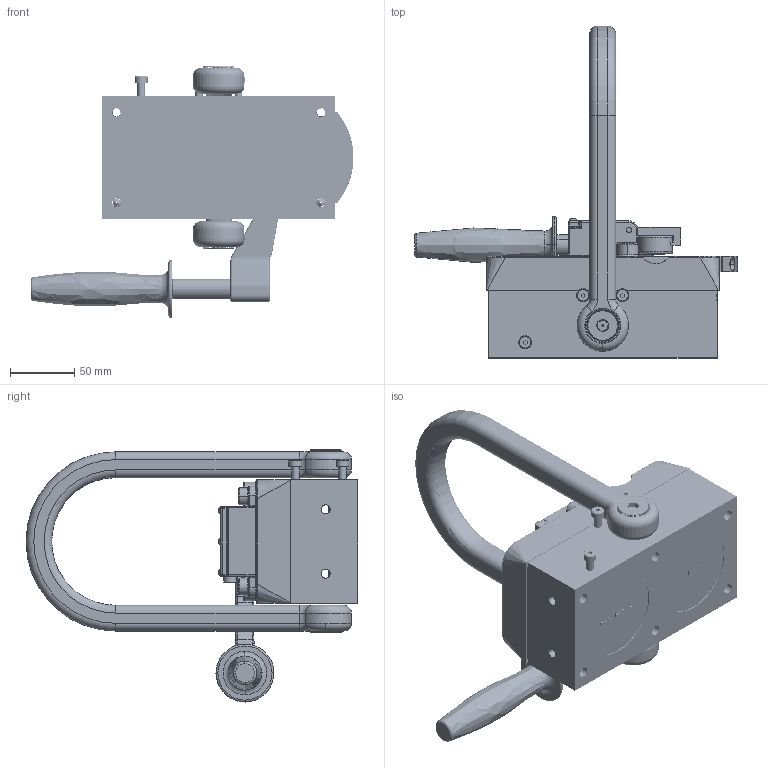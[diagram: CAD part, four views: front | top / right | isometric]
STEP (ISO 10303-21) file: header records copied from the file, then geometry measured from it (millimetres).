
FILE_DESCRIPTION (( 'STEP AP203' ), '1' );
FILE_NAME ('8100484_p.STEP', '2013-08-30T21:09:33', ( '' ), ( '' ), 'SwSTEP 2.0', 'SolidWorks 2010', '' );
FILE_SCHEMA (( 'CONFIG_CONTROL_DESIGN' ));
Products named in the file (1): 8100484_p
Bounding box: 250.52 x 257.5 x 195.55 mm (x, y, z)
Surface area: 204034.8 mm2 (no closed solid volume)
Topology: 0 solids, 187 shells, 1541 faces, 6902 edges, 5380 vertices
Faces by surface type: plane 718, cylinder 491, bspline 120, torus 102, cone 92, sphere 18
Entity records: 114681 total; most frequent: CARTESIAN_POINT 63035, DIRECTION 9581, ORIENTED_EDGE 9334, EDGE_CURVE 6882, VERTEX_POINT 5380, LINE 4617, VECTOR 4617, AXIS2_PLACEMENT_3D 2482
